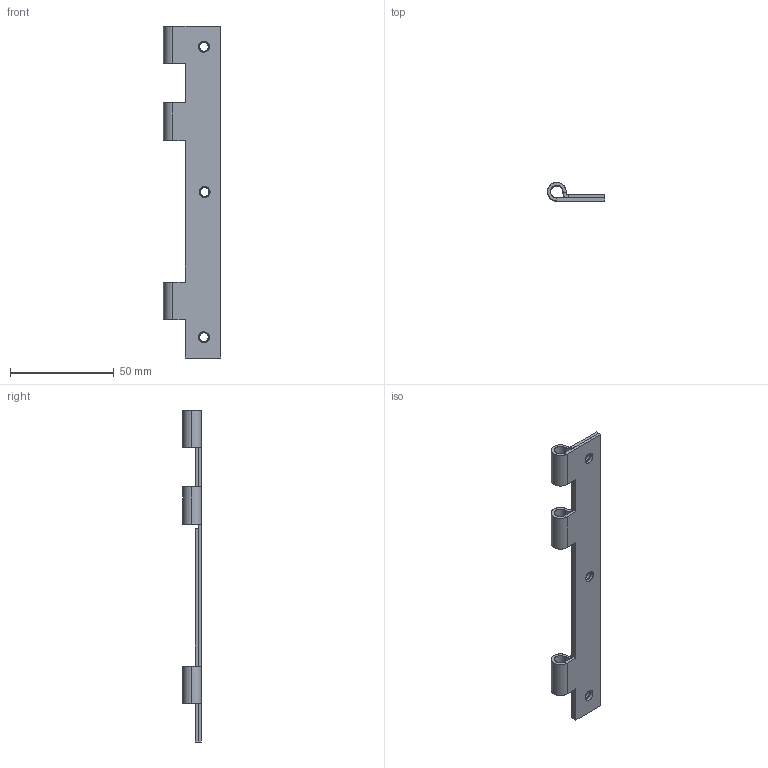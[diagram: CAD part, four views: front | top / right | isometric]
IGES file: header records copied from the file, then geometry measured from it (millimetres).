
Start section: SolidWorks IGES file using analytic representation for surfaces
Global section: file name: C:\Users\cbrechard\Desktop\CC 1474\41474.010.00.IGS; native system: SolidWorks 2008; preprocessor: SolidWorks 2008; author: cbrechard; date: 120124.101551; units: millimetre
Bounding box: 27.5 x 9 x 160 mm (x, y, z)
Surface area: 14909.7 mm2 (no closed solid volume)
Topology: 0 solids, 0 shells, 84 faces, 1140 edges, 1140 vertices
Faces by surface type: revolution 42, bspline 42
